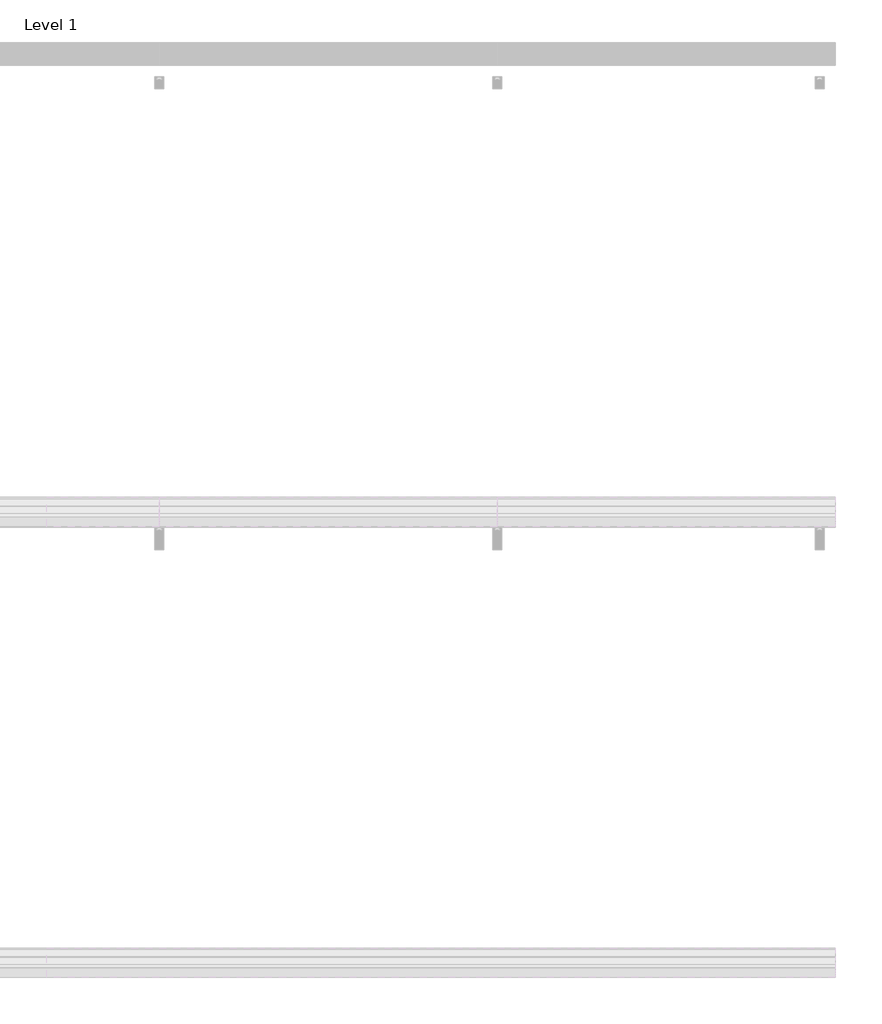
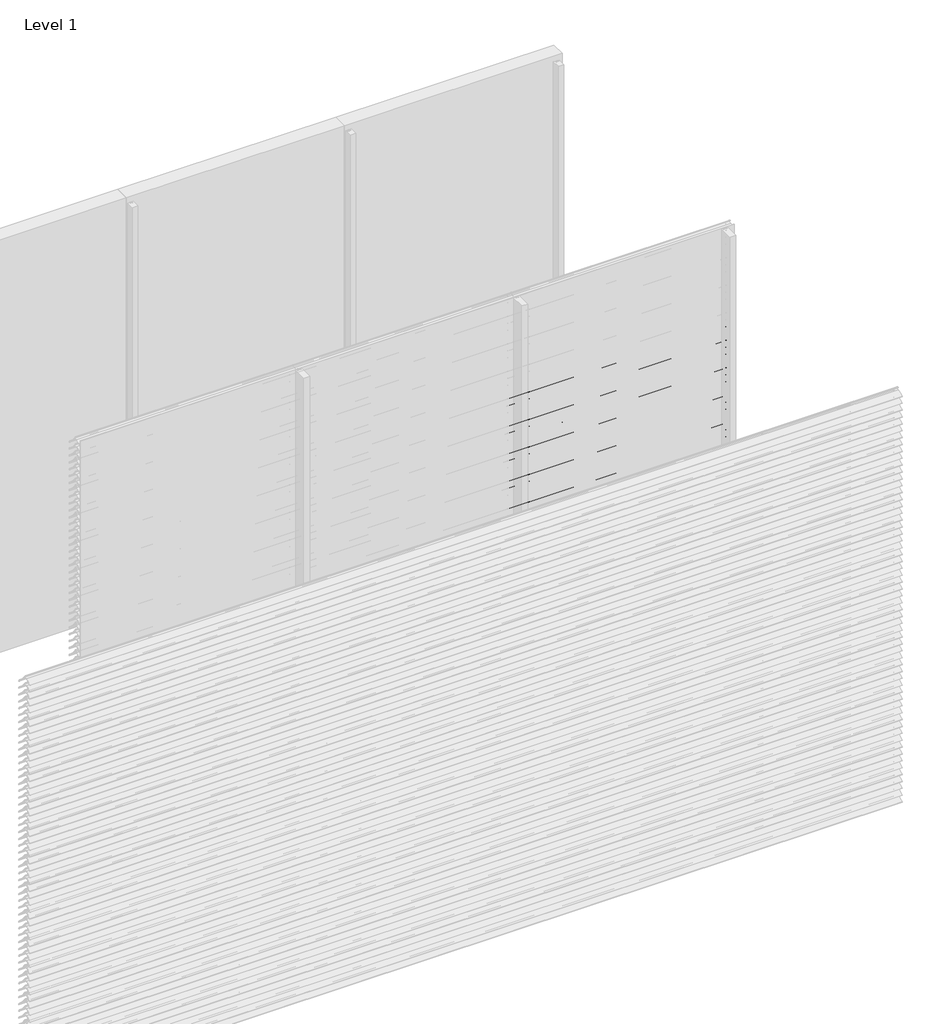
# One storey, part 69 of 173: 17 proxies.
"""IFC4 building model written with IfcOpenShell, lengths in millimetres."""

from ifc_helpers import new_model, si_unit, point, frame, frame_2d, origin, place, context, project, spatial, polyline, circle_curve, trimmed, segment, composite_curve, outline, extrude, element, save

model = new_model("IFC4")

# Units and contexts
model_context = context("Model", 3, world=origin())
ifc_project = project(units=[si_unit("LENGTHUNIT", "METRE", prefix="MILLI")], contexts=[model_context])

# Site, building, storey
site = spatial("IfcSite", under=ifc_project)
building = spatial("IfcBuilding", under=site)
storey = spatial("IfcBuildingStorey", under=building, Name="Level 1", Elevation=0.0)

# Proxies
placement = place(None, origin())
element("IfcBuildingElementProxy", 1, Name="Wall Sweeps", at=placement, inside=storey, context=model_context, shape_type="SweptSolid", body=[
    extrude(outline(composite_curve([segment(polyline([(-35998.0, 2209.1474905), (-35998.0, 2211.6227417)]), True, "CONTINUOUS"), segment(trimmed(circle_curve(frame_2d((-35951.2682172, 2166.2200208)), 65.1557103), [point((-35998.0, 2211.6227417))], [point((-35954.4014323, 2231.3003524))], False, "CARTESIAN"), True, "CONTINUOUS"), segment(polyline([(-35954.4014323, 2231.3003524), (-35934.8315836, 2231.3003524)]), True, "CONTINUOUS"), segment(trimmed(circle_curve(frame_2d((-35732.7329489, 2378.5533172)), 250.0545817), [point((-35934.8315836, 2231.3003524))], [point((-35941.4452143, 2240.8344583))], False, "CARTESIAN"), True, "CONTINUOUS"), segment(trimmed(circle_curve(frame_2d((-35953.2981792, 2235.1737835)), 13.1352966), [point((-35941.4452143, 2240.8344583))], [point((-35953.8171475, 2248.298824))], True, "CARTESIAN"), True, "CONTINUOUS"), segment(polyline([(-35953.8171475, 2248.298824), (-35953.8171475, 2250.0)]), True, "CONTINUOUS"), segment(trimmed(circle_curve(frame_2d((-35953.2981792, 2235.1737835)), 14.8352966), [point((-35953.8171475, 2250.0))], [point((-35939.9637661, 2241.6760487))], False, "CARTESIAN"), True, "CONTINUOUS"), segment(trimmed(circle_curve(frame_2d((-35732.7329489, 2378.5533172)), 248.3545817), [point((-35939.9637661, 2241.6760487))], [point((-35873.8787895, 2174.2059416))], True, "CARTESIAN"), True, "CONTINUOUS"), segment(trimmed(circle_curve(frame_2d((-35883.8147537, 2161.6649442)), 16.0), [point((-35873.8787895, 2174.2059416))], [point((-35867.8648347, 2160.4))], False, "CARTESIAN"), True, "CONTINUOUS"), segment(polyline([(-35867.8648347, 2160.4), (-35869.6712069, 2160.4)]), True, "CONTINUOUS"), segment(trimmed(circle_curve(frame_2d((-35883.8147537, 2161.6649442)), 14.2), [point((-35869.6712069, 2160.4))], [point((-35874.9518628, 2172.7594998))], True, "CARTESIAN"), True, "CONTINUOUS"), segment(trimmed(circle_curve(frame_2d((-35732.7329489, 2378.5533172)), 250.1545817), [point((-35874.9518628, 2172.7594998))], [point((-35933.7064024, 2229.6003524))], False, "CARTESIAN"), True, "CONTINUOUS"), segment(polyline([(-35933.7064024, 2229.6003524), (-35954.3602632, 2229.6003524)]), True, "CONTINUOUS"), segment(trimmed(circle_curve(frame_2d((-35951.2682172, 2166.2200208)), 63.4557103), [point((-35954.3602632, 2229.6003524))], [point((-35998.0, 2209.1474905))], True, "CARTESIAN"), True, "CONTINUOUS")], self_intersect=False)), frame((4500.0, 0.0, 0.0), z_axis=(1.0, 0.0, 0.0), x_axis=(0.0, 1.0, 0.0)), (0.0, 0.0, 1.0), 1500.0),
])
element("IfcBuildingElementProxy", 2, Name="Wall Sweeps", at=placement, inside=storey, context=model_context, shape_type="SweptSolid", body=[
    extrude(outline(composite_curve([segment(polyline([(-35998.0, 2159.1474905), (-35998.0, 2161.6227417)]), True, "CONTINUOUS"), segment(trimmed(circle_curve(frame_2d((-35951.2682172, 2116.2200208)), 65.1557103), [point((-35998.0, 2161.6227417))], [point((-35954.4014323, 2181.3003524))], False, "CARTESIAN"), True, "CONTINUOUS"), segment(polyline([(-35954.4014323, 2181.3003524), (-35934.8315836, 2181.3003524)]), True, "CONTINUOUS"), segment(trimmed(circle_curve(frame_2d((-35732.7329489, 2328.5533172)), 250.0545817), [point((-35934.8315836, 2181.3003524))], [point((-35941.4452143, 2190.8344583))], False, "CARTESIAN"), True, "CONTINUOUS"), segment(trimmed(circle_curve(frame_2d((-35953.2981792, 2185.1737835)), 13.1352966), [point((-35941.4452143, 2190.8344583))], [point((-35953.8171475, 2198.298824))], True, "CARTESIAN"), True, "CONTINUOUS"), segment(polyline([(-35953.8171475, 2198.298824), (-35953.8171475, 2200.0)]), True, "CONTINUOUS"), segment(trimmed(circle_curve(frame_2d((-35953.2981792, 2185.1737835)), 14.8352966), [point((-35953.8171475, 2200.0))], [point((-35939.9637661, 2191.6760487))], False, "CARTESIAN"), True, "CONTINUOUS"), segment(trimmed(circle_curve(frame_2d((-35732.7329489, 2328.5533172)), 248.3545817), [point((-35939.9637661, 2191.6760487))], [point((-35873.8787895, 2124.2059416))], True, "CARTESIAN"), True, "CONTINUOUS"), segment(trimmed(circle_curve(frame_2d((-35883.8147537, 2111.6649442)), 16.0), [point((-35873.8787895, 2124.2059416))], [point((-35867.8648347, 2110.4))], False, "CARTESIAN"), True, "CONTINUOUS"), segment(polyline([(-35867.8648347, 2110.4), (-35869.6712069, 2110.4)]), True, "CONTINUOUS"), segment(trimmed(circle_curve(frame_2d((-35883.8147537, 2111.6649442)), 14.2), [point((-35869.6712069, 2110.4))], [point((-35874.9518628, 2122.7594998))], True, "CARTESIAN"), True, "CONTINUOUS"), segment(trimmed(circle_curve(frame_2d((-35732.7329489, 2328.5533172)), 250.1545817), [point((-35874.9518628, 2122.7594998))], [point((-35933.7064024, 2179.6003524))], False, "CARTESIAN"), True, "CONTINUOUS"), segment(polyline([(-35933.7064024, 2179.6003524), (-35954.3602632, 2179.6003524)]), True, "CONTINUOUS"), segment(trimmed(circle_curve(frame_2d((-35951.2682172, 2116.2200208)), 63.4557103), [point((-35954.3602632, 2179.6003524))], [point((-35998.0, 2159.1474905))], True, "CARTESIAN"), True, "CONTINUOUS")], self_intersect=False)), frame((4500.0, 0.0, 0.0), z_axis=(1.0, 0.0, 0.0), x_axis=(0.0, 1.0, 0.0)), (0.0, 0.0, 1.0), 1500.0),
])
element("IfcBuildingElementProxy", 3, Name="Wall Sweeps", at=placement, inside=storey, context=model_context, shape_type="SweptSolid", body=[
    extrude(outline(composite_curve([segment(polyline([(-35998.0, 2109.1474905), (-35998.0, 2111.6227417)]), True, "CONTINUOUS"), segment(trimmed(circle_curve(frame_2d((-35951.2682172, 2066.2200208)), 65.1557103), [point((-35998.0, 2111.6227417))], [point((-35954.4014323, 2131.3003524))], False, "CARTESIAN"), True, "CONTINUOUS"), segment(polyline([(-35954.4014323, 2131.3003524), (-35934.8315836, 2131.3003524)]), True, "CONTINUOUS"), segment(trimmed(circle_curve(frame_2d((-35732.7329489, 2278.5533172)), 250.0545817), [point((-35934.8315836, 2131.3003524))], [point((-35941.4452143, 2140.8344583))], False, "CARTESIAN"), True, "CONTINUOUS"), segment(trimmed(circle_curve(frame_2d((-35953.2981792, 2135.1737835)), 13.1352966), [point((-35941.4452143, 2140.8344583))], [point((-35953.8171475, 2148.298824))], True, "CARTESIAN"), True, "CONTINUOUS"), segment(polyline([(-35953.8171475, 2148.298824), (-35953.8171475, 2150.0)]), True, "CONTINUOUS"), segment(trimmed(circle_curve(frame_2d((-35953.2981792, 2135.1737835)), 14.8352966), [point((-35953.8171475, 2150.0))], [point((-35939.9637661, 2141.6760487))], False, "CARTESIAN"), True, "CONTINUOUS"), segment(trimmed(circle_curve(frame_2d((-35732.7329489, 2278.5533172)), 248.3545817), [point((-35939.9637661, 2141.6760487))], [point((-35873.8787895, 2074.2059416))], True, "CARTESIAN"), True, "CONTINUOUS"), segment(trimmed(circle_curve(frame_2d((-35883.8147537, 2061.6649442)), 16.0), [point((-35873.8787895, 2074.2059416))], [point((-35867.8648347, 2060.4))], False, "CARTESIAN"), True, "CONTINUOUS"), segment(polyline([(-35867.8648347, 2060.4), (-35869.6712069, 2060.4)]), True, "CONTINUOUS"), segment(trimmed(circle_curve(frame_2d((-35883.8147537, 2061.6649442)), 14.2), [point((-35869.6712069, 2060.4))], [point((-35874.9518628, 2072.7594998))], True, "CARTESIAN"), True, "CONTINUOUS"), segment(trimmed(circle_curve(frame_2d((-35732.7329489, 2278.5533172)), 250.1545817), [point((-35874.9518628, 2072.7594998))], [point((-35933.7064024, 2129.6003524))], False, "CARTESIAN"), True, "CONTINUOUS"), segment(polyline([(-35933.7064024, 2129.6003524), (-35954.3602632, 2129.6003524)]), True, "CONTINUOUS"), segment(trimmed(circle_curve(frame_2d((-35951.2682172, 2066.2200208)), 63.4557103), [point((-35954.3602632, 2129.6003524))], [point((-35998.0, 2109.1474905))], True, "CARTESIAN"), True, "CONTINUOUS")], self_intersect=False)), frame((4500.0, 0.0, 0.0), z_axis=(1.0, 0.0, 0.0), x_axis=(0.0, 1.0, 0.0)), (0.0, 0.0, 1.0), 1500.0),
])
element("IfcBuildingElementProxy", 4, Name="Wall Sweeps", at=placement, inside=storey, context=model_context, shape_type="SweptSolid", body=[
    extrude(outline(composite_curve([segment(polyline([(-35998.0, 2059.1474905), (-35998.0, 2061.6227417)]), True, "CONTINUOUS"), segment(trimmed(circle_curve(frame_2d((-35951.2682172, 2016.2200208)), 65.1557103), [point((-35998.0, 2061.6227417))], [point((-35954.4014323, 2081.3003524))], False, "CARTESIAN"), True, "CONTINUOUS"), segment(polyline([(-35954.4014323, 2081.3003524), (-35934.8315836, 2081.3003524)]), True, "CONTINUOUS"), segment(trimmed(circle_curve(frame_2d((-35732.7329489, 2228.5533172)), 250.0545817), [point((-35934.8315836, 2081.3003524))], [point((-35941.4452143, 2090.8344583))], False, "CARTESIAN"), True, "CONTINUOUS"), segment(trimmed(circle_curve(frame_2d((-35953.2981792, 2085.1737835)), 13.1352966), [point((-35941.4452143, 2090.8344583))], [point((-35953.8171475, 2098.298824))], True, "CARTESIAN"), True, "CONTINUOUS"), segment(polyline([(-35953.8171475, 2098.298824), (-35953.8171475, 2100.0)]), True, "CONTINUOUS"), segment(trimmed(circle_curve(frame_2d((-35953.2981792, 2085.1737835)), 14.8352966), [point((-35953.8171475, 2100.0))], [point((-35939.9637661, 2091.6760487))], False, "CARTESIAN"), True, "CONTINUOUS"), segment(trimmed(circle_curve(frame_2d((-35732.7329489, 2228.5533172)), 248.3545817), [point((-35939.9637661, 2091.6760487))], [point((-35873.8787895, 2024.2059416))], True, "CARTESIAN"), True, "CONTINUOUS"), segment(trimmed(circle_curve(frame_2d((-35883.8147537, 2011.6649442)), 16.0), [point((-35873.8787895, 2024.2059416))], [point((-35867.8648347, 2010.4))], False, "CARTESIAN"), True, "CONTINUOUS"), segment(polyline([(-35867.8648347, 2010.4), (-35869.6712069, 2010.4)]), True, "CONTINUOUS"), segment(trimmed(circle_curve(frame_2d((-35883.8147537, 2011.6649442)), 14.2), [point((-35869.6712069, 2010.4))], [point((-35874.9518628, 2022.7594998))], True, "CARTESIAN"), True, "CONTINUOUS"), segment(trimmed(circle_curve(frame_2d((-35732.7329489, 2228.5533172)), 250.1545817), [point((-35874.9518628, 2022.7594998))], [point((-35933.7064024, 2079.6003524))], False, "CARTESIAN"), True, "CONTINUOUS"), segment(polyline([(-35933.7064024, 2079.6003524), (-35954.3602632, 2079.6003524)]), True, "CONTINUOUS"), segment(trimmed(circle_curve(frame_2d((-35951.2682172, 2016.2200208)), 63.4557103), [point((-35954.3602632, 2079.6003524))], [point((-35998.0, 2059.1474905))], True, "CARTESIAN"), True, "CONTINUOUS")], self_intersect=False)), frame((4500.0, 0.0, 0.0), z_axis=(1.0, 0.0, 0.0), x_axis=(0.0, 1.0, 0.0)), (0.0, 0.0, 1.0), 1500.0),
])
element("IfcBuildingElementProxy", 5, Name="Wall Sweeps", at=placement, inside=storey, context=model_context, shape_type="SweptSolid", body=[
    extrude(outline(composite_curve([segment(polyline([(-35998.0, 2009.1474905), (-35998.0, 2011.6227417)]), True, "CONTINUOUS"), segment(trimmed(circle_curve(frame_2d((-35951.2682172, 1966.2200208)), 65.1557103), [point((-35998.0, 2011.6227417))], [point((-35954.4014323, 2031.3003524))], False, "CARTESIAN"), True, "CONTINUOUS"), segment(polyline([(-35954.4014323, 2031.3003524), (-35934.8315836, 2031.3003524)]), True, "CONTINUOUS"), segment(trimmed(circle_curve(frame_2d((-35732.7329489, 2178.5533172)), 250.0545817), [point((-35934.8315836, 2031.3003524))], [point((-35941.4452143, 2040.8344583))], False, "CARTESIAN"), True, "CONTINUOUS"), segment(trimmed(circle_curve(frame_2d((-35953.2981792, 2035.1737835)), 13.1352966), [point((-35941.4452143, 2040.8344583))], [point((-35953.8171475, 2048.298824))], True, "CARTESIAN"), True, "CONTINUOUS"), segment(polyline([(-35953.8171475, 2048.298824), (-35953.8171475, 2050.0)]), True, "CONTINUOUS"), segment(trimmed(circle_curve(frame_2d((-35953.2981792, 2035.1737835)), 14.8352966), [point((-35953.8171475, 2050.0))], [point((-35939.9637661, 2041.6760487))], False, "CARTESIAN"), True, "CONTINUOUS"), segment(trimmed(circle_curve(frame_2d((-35732.7329489, 2178.5533172)), 248.3545817), [point((-35939.9637661, 2041.6760487))], [point((-35873.8787895, 1974.2059416))], True, "CARTESIAN"), True, "CONTINUOUS"), segment(trimmed(circle_curve(frame_2d((-35883.8147537, 1961.6649442)), 16.0), [point((-35873.8787895, 1974.2059416))], [point((-35867.8648347, 1960.4))], False, "CARTESIAN"), True, "CONTINUOUS"), segment(polyline([(-35867.8648347, 1960.4), (-35869.6712069, 1960.4)]), True, "CONTINUOUS"), segment(trimmed(circle_curve(frame_2d((-35883.8147537, 1961.6649442)), 14.2), [point((-35869.6712069, 1960.4))], [point((-35874.9518628, 1972.7594998))], True, "CARTESIAN"), True, "CONTINUOUS"), segment(trimmed(circle_curve(frame_2d((-35732.7329489, 2178.5533172)), 250.1545817), [point((-35874.9518628, 1972.7594998))], [point((-35933.7064024, 2029.6003524))], False, "CARTESIAN"), True, "CONTINUOUS"), segment(polyline([(-35933.7064024, 2029.6003524), (-35954.3602632, 2029.6003524)]), True, "CONTINUOUS"), segment(trimmed(circle_curve(frame_2d((-35951.2682172, 1966.2200208)), 63.4557103), [point((-35954.3602632, 2029.6003524))], [point((-35998.0, 2009.1474905))], True, "CARTESIAN"), True, "CONTINUOUS")], self_intersect=False)), frame((4500.0, 0.0, 0.0), z_axis=(1.0, 0.0, 0.0), x_axis=(0.0, 1.0, 0.0)), (0.0, 0.0, 1.0), 1500.0),
])
element("IfcBuildingElementProxy", 6, Name="Wall Sweeps", at=placement, inside=storey, context=model_context, shape_type="SweptSolid", body=[
    extrude(outline(composite_curve([segment(polyline([(-35998.0, 1959.1474905), (-35998.0, 1961.6227417)]), True, "CONTINUOUS"), segment(trimmed(circle_curve(frame_2d((-35951.2682172, 1916.2200208)), 65.1557103), [point((-35998.0, 1961.6227417))], [point((-35954.4014323, 1981.3003524))], False, "CARTESIAN"), True, "CONTINUOUS"), segment(polyline([(-35954.4014323, 1981.3003524), (-35934.8315836, 1981.3003524)]), True, "CONTINUOUS"), segment(trimmed(circle_curve(frame_2d((-35732.7329489, 2128.5533172)), 250.0545817), [point((-35934.8315836, 1981.3003524))], [point((-35941.4452143, 1990.8344583))], False, "CARTESIAN"), True, "CONTINUOUS"), segment(trimmed(circle_curve(frame_2d((-35953.2981792, 1985.1737835)), 13.1352966), [point((-35941.4452143, 1990.8344583))], [point((-35953.8171475, 1998.298824))], True, "CARTESIAN"), True, "CONTINUOUS"), segment(polyline([(-35953.8171475, 1998.298824), (-35953.8171475, 2000.0)]), True, "CONTINUOUS"), segment(trimmed(circle_curve(frame_2d((-35953.2981792, 1985.1737835)), 14.8352966), [point((-35953.8171475, 2000.0))], [point((-35939.9637661, 1991.6760487))], False, "CARTESIAN"), True, "CONTINUOUS"), segment(trimmed(circle_curve(frame_2d((-35732.7329489, 2128.5533172)), 248.3545817), [point((-35939.9637661, 1991.6760487))], [point((-35873.8787895, 1924.2059416))], True, "CARTESIAN"), True, "CONTINUOUS"), segment(trimmed(circle_curve(frame_2d((-35883.8147537, 1911.6649442)), 16.0), [point((-35873.8787895, 1924.2059416))], [point((-35867.8648347, 1910.4))], False, "CARTESIAN"), True, "CONTINUOUS"), segment(polyline([(-35867.8648347, 1910.4), (-35869.6712069, 1910.4)]), True, "CONTINUOUS"), segment(trimmed(circle_curve(frame_2d((-35883.8147537, 1911.6649442)), 14.2), [point((-35869.6712069, 1910.4))], [point((-35874.9518628, 1922.7594998))], True, "CARTESIAN"), True, "CONTINUOUS"), segment(trimmed(circle_curve(frame_2d((-35732.7329489, 2128.5533172)), 250.1545817), [point((-35874.9518628, 1922.7594998))], [point((-35933.7064024, 1979.6003524))], False, "CARTESIAN"), True, "CONTINUOUS"), segment(polyline([(-35933.7064024, 1979.6003524), (-35954.3602632, 1979.6003524)]), True, "CONTINUOUS"), segment(trimmed(circle_curve(frame_2d((-35951.2682172, 1916.2200208)), 63.4557103), [point((-35954.3602632, 1979.6003524))], [point((-35998.0, 1959.1474905))], True, "CARTESIAN"), True, "CONTINUOUS")], self_intersect=False)), frame((4500.0, 0.0, 0.0), z_axis=(1.0, 0.0, 0.0), x_axis=(0.0, 1.0, 0.0)), (0.0, 0.0, 1.0), 1500.0),
])
element("IfcBuildingElementProxy", 7, Name="Wall Sweeps", at=placement, inside=storey, context=model_context, shape_type="SweptSolid", body=[
    extrude(outline(composite_curve([segment(polyline([(-35998.0, 1909.1474905), (-35998.0, 1911.6227417)]), True, "CONTINUOUS"), segment(trimmed(circle_curve(frame_2d((-35951.2682172, 1866.2200208)), 65.1557103), [point((-35998.0, 1911.6227417))], [point((-35954.4014323, 1931.3003524))], False, "CARTESIAN"), True, "CONTINUOUS"), segment(polyline([(-35954.4014323, 1931.3003524), (-35934.8315836, 1931.3003524)]), True, "CONTINUOUS"), segment(trimmed(circle_curve(frame_2d((-35732.7329489, 2078.5533172)), 250.0545817), [point((-35934.8315836, 1931.3003524))], [point((-35941.4452143, 1940.8344583))], False, "CARTESIAN"), True, "CONTINUOUS"), segment(trimmed(circle_curve(frame_2d((-35953.2981792, 1935.1737835)), 13.1352966), [point((-35941.4452143, 1940.8344583))], [point((-35953.8171475, 1948.298824))], True, "CARTESIAN"), True, "CONTINUOUS"), segment(polyline([(-35953.8171475, 1948.298824), (-35953.8171475, 1950.0)]), True, "CONTINUOUS"), segment(trimmed(circle_curve(frame_2d((-35953.2981792, 1935.1737835)), 14.8352966), [point((-35953.8171475, 1950.0))], [point((-35939.9637661, 1941.6760487))], False, "CARTESIAN"), True, "CONTINUOUS"), segment(trimmed(circle_curve(frame_2d((-35732.7329489, 2078.5533172)), 248.3545817), [point((-35939.9637661, 1941.6760487))], [point((-35873.8787895, 1874.2059416))], True, "CARTESIAN"), True, "CONTINUOUS"), segment(trimmed(circle_curve(frame_2d((-35883.8147537, 1861.6649442)), 16.0), [point((-35873.8787895, 1874.2059416))], [point((-35867.8648347, 1860.4))], False, "CARTESIAN"), True, "CONTINUOUS"), segment(polyline([(-35867.8648347, 1860.4), (-35869.6712069, 1860.4)]), True, "CONTINUOUS"), segment(trimmed(circle_curve(frame_2d((-35883.8147537, 1861.6649442)), 14.2), [point((-35869.6712069, 1860.4))], [point((-35874.9518628, 1872.7594998))], True, "CARTESIAN"), True, "CONTINUOUS"), segment(trimmed(circle_curve(frame_2d((-35732.7329489, 2078.5533172)), 250.1545817), [point((-35874.9518628, 1872.7594998))], [point((-35933.7064024, 1929.6003524))], False, "CARTESIAN"), True, "CONTINUOUS"), segment(polyline([(-35933.7064024, 1929.6003524), (-35954.3602632, 1929.6003524)]), True, "CONTINUOUS"), segment(trimmed(circle_curve(frame_2d((-35951.2682172, 1866.2200208)), 63.4557103), [point((-35954.3602632, 1929.6003524))], [point((-35998.0, 1909.1474905))], True, "CARTESIAN"), True, "CONTINUOUS")], self_intersect=False)), frame((4500.0, 0.0, 0.0), z_axis=(1.0, 0.0, 0.0), x_axis=(0.0, 1.0, 0.0)), (0.0, 0.0, 1.0), 1500.0),
])
element("IfcBuildingElementProxy", 8, Name="Wall Sweeps", at=placement, inside=storey, context=model_context, shape_type="SweptSolid", body=[
    extrude(outline(composite_curve([segment(polyline([(-35998.0, 1859.1474905), (-35998.0, 1861.6227417)]), True, "CONTINUOUS"), segment(trimmed(circle_curve(frame_2d((-35951.2682172, 1816.2200208)), 65.1557103), [point((-35998.0, 1861.6227417))], [point((-35954.4014323, 1881.3003524))], False, "CARTESIAN"), True, "CONTINUOUS"), segment(polyline([(-35954.4014323, 1881.3003524), (-35934.8315836, 1881.3003524)]), True, "CONTINUOUS"), segment(trimmed(circle_curve(frame_2d((-35732.7329489, 2028.5533172)), 250.0545817), [point((-35934.8315836, 1881.3003524))], [point((-35941.4452143, 1890.8344583))], False, "CARTESIAN"), True, "CONTINUOUS"), segment(trimmed(circle_curve(frame_2d((-35953.2981792, 1885.1737835)), 13.1352966), [point((-35941.4452143, 1890.8344583))], [point((-35953.8171475, 1898.298824))], True, "CARTESIAN"), True, "CONTINUOUS"), segment(polyline([(-35953.8171475, 1898.298824), (-35953.8171475, 1900.0)]), True, "CONTINUOUS"), segment(trimmed(circle_curve(frame_2d((-35953.2981792, 1885.1737835)), 14.8352966), [point((-35953.8171475, 1900.0))], [point((-35939.9637661, 1891.6760487))], False, "CARTESIAN"), True, "CONTINUOUS"), segment(trimmed(circle_curve(frame_2d((-35732.7329489, 2028.5533172)), 248.3545817), [point((-35939.9637661, 1891.6760487))], [point((-35873.8787895, 1824.2059416))], True, "CARTESIAN"), True, "CONTINUOUS"), segment(trimmed(circle_curve(frame_2d((-35883.8147537, 1811.6649442)), 16.0), [point((-35873.8787895, 1824.2059416))], [point((-35867.8648347, 1810.4))], False, "CARTESIAN"), True, "CONTINUOUS"), segment(polyline([(-35867.8648347, 1810.4), (-35869.6712069, 1810.4)]), True, "CONTINUOUS"), segment(trimmed(circle_curve(frame_2d((-35883.8147537, 1811.6649442)), 14.2), [point((-35869.6712069, 1810.4))], [point((-35874.9518628, 1822.7594998))], True, "CARTESIAN"), True, "CONTINUOUS"), segment(trimmed(circle_curve(frame_2d((-35732.7329489, 2028.5533172)), 250.1545817), [point((-35874.9518628, 1822.7594998))], [point((-35933.7064024, 1879.6003524))], False, "CARTESIAN"), True, "CONTINUOUS"), segment(polyline([(-35933.7064024, 1879.6003524), (-35954.3602632, 1879.6003524)]), True, "CONTINUOUS"), segment(trimmed(circle_curve(frame_2d((-35951.2682172, 1816.2200208)), 63.4557103), [point((-35954.3602632, 1879.6003524))], [point((-35998.0, 1859.1474905))], True, "CARTESIAN"), True, "CONTINUOUS")], self_intersect=False)), frame((4500.0, 0.0, 0.0), z_axis=(1.0, 0.0, 0.0), x_axis=(0.0, 1.0, 0.0)), (0.0, 0.0, 1.0), 1500.0),
])
element("IfcBuildingElementProxy", 9, Name="Wall Sweeps", at=placement, inside=storey, context=model_context, shape_type="SweptSolid", body=[
    extrude(outline(composite_curve([segment(polyline([(-35998.0, 1809.1474905), (-35998.0, 1811.6227417)]), True, "CONTINUOUS"), segment(trimmed(circle_curve(frame_2d((-35951.2682172, 1766.2200208)), 65.1557103), [point((-35998.0, 1811.6227417))], [point((-35954.4014323, 1831.3003524))], False, "CARTESIAN"), True, "CONTINUOUS"), segment(polyline([(-35954.4014323, 1831.3003524), (-35934.8315836, 1831.3003524)]), True, "CONTINUOUS"), segment(trimmed(circle_curve(frame_2d((-35732.7329489, 1978.5533172)), 250.0545817), [point((-35934.8315836, 1831.3003524))], [point((-35941.4452143, 1840.8344583))], False, "CARTESIAN"), True, "CONTINUOUS"), segment(trimmed(circle_curve(frame_2d((-35953.2981792, 1835.1737835)), 13.1352966), [point((-35941.4452143, 1840.8344583))], [point((-35953.8171475, 1848.298824))], True, "CARTESIAN"), True, "CONTINUOUS"), segment(polyline([(-35953.8171475, 1848.298824), (-35953.8171475, 1850.0)]), True, "CONTINUOUS"), segment(trimmed(circle_curve(frame_2d((-35953.2981792, 1835.1737835)), 14.8352966), [point((-35953.8171475, 1850.0))], [point((-35939.9637661, 1841.6760487))], False, "CARTESIAN"), True, "CONTINUOUS"), segment(trimmed(circle_curve(frame_2d((-35732.7329489, 1978.5533172)), 248.3545817), [point((-35939.9637661, 1841.6760487))], [point((-35873.8787895, 1774.2059416))], True, "CARTESIAN"), True, "CONTINUOUS"), segment(trimmed(circle_curve(frame_2d((-35883.8147537, 1761.6649442)), 16.0), [point((-35873.8787895, 1774.2059416))], [point((-35867.8648347, 1760.4))], False, "CARTESIAN"), True, "CONTINUOUS"), segment(polyline([(-35867.8648347, 1760.4), (-35869.6712069, 1760.4)]), True, "CONTINUOUS"), segment(trimmed(circle_curve(frame_2d((-35883.8147537, 1761.6649442)), 14.2), [point((-35869.6712069, 1760.4))], [point((-35874.9518628, 1772.7594998))], True, "CARTESIAN"), True, "CONTINUOUS"), segment(trimmed(circle_curve(frame_2d((-35732.7329489, 1978.5533172)), 250.1545817), [point((-35874.9518628, 1772.7594998))], [point((-35933.7064024, 1829.6003524))], False, "CARTESIAN"), True, "CONTINUOUS"), segment(polyline([(-35933.7064024, 1829.6003524), (-35954.3602632, 1829.6003524)]), True, "CONTINUOUS"), segment(trimmed(circle_curve(frame_2d((-35951.2682172, 1766.2200208)), 63.4557103), [point((-35954.3602632, 1829.6003524))], [point((-35998.0, 1809.1474905))], True, "CARTESIAN"), True, "CONTINUOUS")], self_intersect=False)), frame((4500.0, 0.0, 0.0), z_axis=(1.0, 0.0, 0.0), x_axis=(0.0, 1.0, 0.0)), (0.0, 0.0, 1.0), 1500.0),
])
element("IfcBuildingElementProxy", 10, Name="Wall Sweeps", at=placement, inside=storey, context=model_context, shape_type="SweptSolid", body=[
    extrude(outline(composite_curve([segment(polyline([(-35998.0, 1759.1474905), (-35998.0, 1761.6227417)]), True, "CONTINUOUS"), segment(trimmed(circle_curve(frame_2d((-35951.2682172, 1716.2200208)), 65.1557103), [point((-35998.0, 1761.6227417))], [point((-35954.4014323, 1781.3003524))], False, "CARTESIAN"), True, "CONTINUOUS"), segment(polyline([(-35954.4014323, 1781.3003524), (-35934.8315836, 1781.3003524)]), True, "CONTINUOUS"), segment(trimmed(circle_curve(frame_2d((-35732.7329489, 1928.5533172)), 250.0545817), [point((-35934.8315836, 1781.3003524))], [point((-35941.4452143, 1790.8344583))], False, "CARTESIAN"), True, "CONTINUOUS"), segment(trimmed(circle_curve(frame_2d((-35953.2981792, 1785.1737835)), 13.1352966), [point((-35941.4452143, 1790.8344583))], [point((-35953.8171475, 1798.298824))], True, "CARTESIAN"), True, "CONTINUOUS"), segment(polyline([(-35953.8171475, 1798.298824), (-35953.8171475, 1800.0)]), True, "CONTINUOUS"), segment(trimmed(circle_curve(frame_2d((-35953.2981792, 1785.1737835)), 14.8352966), [point((-35953.8171475, 1800.0))], [point((-35939.9637661, 1791.6760487))], False, "CARTESIAN"), True, "CONTINUOUS"), segment(trimmed(circle_curve(frame_2d((-35732.7329489, 1928.5533172)), 248.3545817), [point((-35939.9637661, 1791.6760487))], [point((-35873.8787895, 1724.2059416))], True, "CARTESIAN"), True, "CONTINUOUS"), segment(trimmed(circle_curve(frame_2d((-35883.8147537, 1711.6649442)), 16.0), [point((-35873.8787895, 1724.2059416))], [point((-35867.8648347, 1710.4))], False, "CARTESIAN"), True, "CONTINUOUS"), segment(polyline([(-35867.8648347, 1710.4), (-35869.6712069, 1710.4)]), True, "CONTINUOUS"), segment(trimmed(circle_curve(frame_2d((-35883.8147537, 1711.6649442)), 14.2), [point((-35869.6712069, 1710.4))], [point((-35874.9518628, 1722.7594998))], True, "CARTESIAN"), True, "CONTINUOUS"), segment(trimmed(circle_curve(frame_2d((-35732.7329489, 1928.5533172)), 250.1545817), [point((-35874.9518628, 1722.7594998))], [point((-35933.7064024, 1779.6003524))], False, "CARTESIAN"), True, "CONTINUOUS"), segment(polyline([(-35933.7064024, 1779.6003524), (-35954.3602632, 1779.6003524)]), True, "CONTINUOUS"), segment(trimmed(circle_curve(frame_2d((-35951.2682172, 1716.2200208)), 63.4557103), [point((-35954.3602632, 1779.6003524))], [point((-35998.0, 1759.1474905))], True, "CARTESIAN"), True, "CONTINUOUS")], self_intersect=False)), frame((4500.0, 0.0, 0.0), z_axis=(1.0, 0.0, 0.0), x_axis=(0.0, 1.0, 0.0)), (0.0, 0.0, 1.0), 1500.0),
])
element("IfcBuildingElementProxy", 11, Name="Wall Sweeps", at=placement, inside=storey, context=model_context, shape_type="SweptSolid", body=[
    extrude(outline(composite_curve([segment(polyline([(-35998.0, 1709.1474905), (-35998.0, 1711.6227417)]), True, "CONTINUOUS"), segment(trimmed(circle_curve(frame_2d((-35951.2682172, 1666.2200208)), 65.1557103), [point((-35998.0, 1711.6227417))], [point((-35954.4014323, 1731.3003524))], False, "CARTESIAN"), True, "CONTINUOUS"), segment(polyline([(-35954.4014323, 1731.3003524), (-35934.8315836, 1731.3003524)]), True, "CONTINUOUS"), segment(trimmed(circle_curve(frame_2d((-35732.7329489, 1878.5533172)), 250.0545817), [point((-35934.8315836, 1731.3003524))], [point((-35941.4452143, 1740.8344583))], False, "CARTESIAN"), True, "CONTINUOUS"), segment(trimmed(circle_curve(frame_2d((-35953.2981792, 1735.1737835)), 13.1352966), [point((-35941.4452143, 1740.8344583))], [point((-35953.8171475, 1748.298824))], True, "CARTESIAN"), True, "CONTINUOUS"), segment(polyline([(-35953.8171475, 1748.298824), (-35953.8171475, 1750.0)]), True, "CONTINUOUS"), segment(trimmed(circle_curve(frame_2d((-35953.2981792, 1735.1737835)), 14.8352966), [point((-35953.8171475, 1750.0))], [point((-35939.9637661, 1741.6760487))], False, "CARTESIAN"), True, "CONTINUOUS"), segment(trimmed(circle_curve(frame_2d((-35732.7329489, 1878.5533172)), 248.3545817), [point((-35939.9637661, 1741.6760487))], [point((-35873.8787895, 1674.2059416))], True, "CARTESIAN"), True, "CONTINUOUS"), segment(trimmed(circle_curve(frame_2d((-35883.8147537, 1661.6649442)), 16.0), [point((-35873.8787895, 1674.2059416))], [point((-35867.8648347, 1660.4))], False, "CARTESIAN"), True, "CONTINUOUS"), segment(polyline([(-35867.8648347, 1660.4), (-35869.6712069, 1660.4)]), True, "CONTINUOUS"), segment(trimmed(circle_curve(frame_2d((-35883.8147537, 1661.6649442)), 14.2), [point((-35869.6712069, 1660.4))], [point((-35874.9518628, 1672.7594998))], True, "CARTESIAN"), True, "CONTINUOUS"), segment(trimmed(circle_curve(frame_2d((-35732.7329489, 1878.5533172)), 250.1545817), [point((-35874.9518628, 1672.7594998))], [point((-35933.7064024, 1729.6003524))], False, "CARTESIAN"), True, "CONTINUOUS"), segment(polyline([(-35933.7064024, 1729.6003524), (-35954.3602632, 1729.6003524)]), True, "CONTINUOUS"), segment(trimmed(circle_curve(frame_2d((-35951.2682172, 1666.2200208)), 63.4557103), [point((-35954.3602632, 1729.6003524))], [point((-35998.0, 1709.1474905))], True, "CARTESIAN"), True, "CONTINUOUS")], self_intersect=False)), frame((4500.0, 0.0, 0.0), z_axis=(1.0, 0.0, 0.0), x_axis=(0.0, 1.0, 0.0)), (0.0, 0.0, 1.0), 1500.0),
])
element("IfcBuildingElementProxy", 12, Name="Wall Sweeps", at=placement, inside=storey, context=model_context, shape_type="SweptSolid", body=[
    extrude(outline(composite_curve([segment(polyline([(-35998.0, 1659.1474905), (-35998.0, 1661.6227417)]), True, "CONTINUOUS"), segment(trimmed(circle_curve(frame_2d((-35951.2682172, 1616.2200208)), 65.1557103), [point((-35998.0, 1661.6227417))], [point((-35954.4014323, 1681.3003524))], False, "CARTESIAN"), True, "CONTINUOUS"), segment(polyline([(-35954.4014323, 1681.3003524), (-35934.8315836, 1681.3003524)]), True, "CONTINUOUS"), segment(trimmed(circle_curve(frame_2d((-35732.7329489, 1828.5533172)), 250.0545817), [point((-35934.8315836, 1681.3003524))], [point((-35941.4452143, 1690.8344583))], False, "CARTESIAN"), True, "CONTINUOUS"), segment(trimmed(circle_curve(frame_2d((-35953.2981792, 1685.1737835)), 13.1352966), [point((-35941.4452143, 1690.8344583))], [point((-35953.8171475, 1698.298824))], True, "CARTESIAN"), True, "CONTINUOUS"), segment(polyline([(-35953.8171475, 1698.298824), (-35953.8171475, 1700.0)]), True, "CONTINUOUS"), segment(trimmed(circle_curve(frame_2d((-35953.2981792, 1685.1737835)), 14.8352966), [point((-35953.8171475, 1700.0))], [point((-35939.9637661, 1691.6760487))], False, "CARTESIAN"), True, "CONTINUOUS"), segment(trimmed(circle_curve(frame_2d((-35732.7329489, 1828.5533172)), 248.3545817), [point((-35939.9637661, 1691.6760487))], [point((-35873.8787895, 1624.2059416))], True, "CARTESIAN"), True, "CONTINUOUS"), segment(trimmed(circle_curve(frame_2d((-35883.8147537, 1611.6649442)), 16.0), [point((-35873.8787895, 1624.2059416))], [point((-35867.8648347, 1610.4))], False, "CARTESIAN"), True, "CONTINUOUS"), segment(polyline([(-35867.8648347, 1610.4), (-35869.6712069, 1610.4)]), True, "CONTINUOUS"), segment(trimmed(circle_curve(frame_2d((-35883.8147537, 1611.6649442)), 14.2), [point((-35869.6712069, 1610.4))], [point((-35874.9518628, 1622.7594998))], True, "CARTESIAN"), True, "CONTINUOUS"), segment(trimmed(circle_curve(frame_2d((-35732.7329489, 1828.5533172)), 250.1545817), [point((-35874.9518628, 1622.7594998))], [point((-35933.7064024, 1679.6003524))], False, "CARTESIAN"), True, "CONTINUOUS"), segment(polyline([(-35933.7064024, 1679.6003524), (-35954.3602632, 1679.6003524)]), True, "CONTINUOUS"), segment(trimmed(circle_curve(frame_2d((-35951.2682172, 1616.2200208)), 63.4557103), [point((-35954.3602632, 1679.6003524))], [point((-35998.0, 1659.1474905))], True, "CARTESIAN"), True, "CONTINUOUS")], self_intersect=False)), frame((4500.0, 0.0, 0.0), z_axis=(1.0, 0.0, 0.0), x_axis=(0.0, 1.0, 0.0)), (0.0, 0.0, 1.0), 1500.0),
])
element("IfcBuildingElementProxy", 13, Name="Wall Sweeps", at=placement, inside=storey, context=model_context, shape_type="SweptSolid", body=[
    extrude(outline(composite_curve([segment(polyline([(-35998.0, 1609.1474905), (-35998.0, 1611.6227417)]), True, "CONTINUOUS"), segment(trimmed(circle_curve(frame_2d((-35951.2682172, 1566.2200208)), 65.1557103), [point((-35998.0, 1611.6227417))], [point((-35954.4014323, 1631.3003524))], False, "CARTESIAN"), True, "CONTINUOUS"), segment(polyline([(-35954.4014323, 1631.3003524), (-35934.8315836, 1631.3003524)]), True, "CONTINUOUS"), segment(trimmed(circle_curve(frame_2d((-35732.7329489, 1778.5533172)), 250.0545817), [point((-35934.8315836, 1631.3003524))], [point((-35941.4452143, 1640.8344583))], False, "CARTESIAN"), True, "CONTINUOUS"), segment(trimmed(circle_curve(frame_2d((-35953.2981792, 1635.1737835)), 13.1352966), [point((-35941.4452143, 1640.8344583))], [point((-35953.8171475, 1648.298824))], True, "CARTESIAN"), True, "CONTINUOUS"), segment(polyline([(-35953.8171475, 1648.298824), (-35953.8171475, 1650.0)]), True, "CONTINUOUS"), segment(trimmed(circle_curve(frame_2d((-35953.2981792, 1635.1737835)), 14.8352966), [point((-35953.8171475, 1650.0))], [point((-35939.9637661, 1641.6760487))], False, "CARTESIAN"), True, "CONTINUOUS"), segment(trimmed(circle_curve(frame_2d((-35732.7329489, 1778.5533172)), 248.3545817), [point((-35939.9637661, 1641.6760487))], [point((-35873.8787895, 1574.2059416))], True, "CARTESIAN"), True, "CONTINUOUS"), segment(trimmed(circle_curve(frame_2d((-35883.8147537, 1561.6649442)), 16.0), [point((-35873.8787895, 1574.2059416))], [point((-35867.8648347, 1560.4))], False, "CARTESIAN"), True, "CONTINUOUS"), segment(polyline([(-35867.8648347, 1560.4), (-35869.6712069, 1560.4)]), True, "CONTINUOUS"), segment(trimmed(circle_curve(frame_2d((-35883.8147537, 1561.6649442)), 14.2), [point((-35869.6712069, 1560.4))], [point((-35874.9518628, 1572.7594998))], True, "CARTESIAN"), True, "CONTINUOUS"), segment(trimmed(circle_curve(frame_2d((-35732.7329489, 1778.5533172)), 250.1545817), [point((-35874.9518628, 1572.7594998))], [point((-35933.7064024, 1629.6003524))], False, "CARTESIAN"), True, "CONTINUOUS"), segment(polyline([(-35933.7064024, 1629.6003524), (-35954.3602632, 1629.6003524)]), True, "CONTINUOUS"), segment(trimmed(circle_curve(frame_2d((-35951.2682172, 1566.2200208)), 63.4557103), [point((-35954.3602632, 1629.6003524))], [point((-35998.0, 1609.1474905))], True, "CARTESIAN"), True, "CONTINUOUS")], self_intersect=False)), frame((4500.0, 0.0, 0.0), z_axis=(1.0, 0.0, 0.0), x_axis=(0.0, 1.0, 0.0)), (0.0, 0.0, 1.0), 1500.0),
])
element("IfcBuildingElementProxy", 14, Name="Wall Sweeps", at=placement, inside=storey, context=model_context, shape_type="SweptSolid", body=[
    extrude(outline(composite_curve([segment(polyline([(-35998.0, 1559.1474905), (-35998.0, 1561.6227417)]), True, "CONTINUOUS"), segment(trimmed(circle_curve(frame_2d((-35951.2682172, 1516.2200208)), 65.1557103), [point((-35998.0, 1561.6227417))], [point((-35954.4014323, 1581.3003524))], False, "CARTESIAN"), True, "CONTINUOUS"), segment(polyline([(-35954.4014323, 1581.3003524), (-35934.8315836, 1581.3003524)]), True, "CONTINUOUS"), segment(trimmed(circle_curve(frame_2d((-35732.7329489, 1728.5533172)), 250.0545817), [point((-35934.8315836, 1581.3003524))], [point((-35941.4452143, 1590.8344583))], False, "CARTESIAN"), True, "CONTINUOUS"), segment(trimmed(circle_curve(frame_2d((-35953.2981792, 1585.1737835)), 13.1352966), [point((-35941.4452143, 1590.8344583))], [point((-35953.8171475, 1598.298824))], True, "CARTESIAN"), True, "CONTINUOUS"), segment(polyline([(-35953.8171475, 1598.298824), (-35953.8171475, 1600.0)]), True, "CONTINUOUS"), segment(trimmed(circle_curve(frame_2d((-35953.2981792, 1585.1737835)), 14.8352966), [point((-35953.8171475, 1600.0))], [point((-35939.9637661, 1591.6760487))], False, "CARTESIAN"), True, "CONTINUOUS"), segment(trimmed(circle_curve(frame_2d((-35732.7329489, 1728.5533172)), 248.3545817), [point((-35939.9637661, 1591.6760487))], [point((-35873.8787895, 1524.2059416))], True, "CARTESIAN"), True, "CONTINUOUS"), segment(trimmed(circle_curve(frame_2d((-35883.8147537, 1511.6649442)), 16.0), [point((-35873.8787895, 1524.2059416))], [point((-35867.8648347, 1510.4))], False, "CARTESIAN"), True, "CONTINUOUS"), segment(polyline([(-35867.8648347, 1510.4), (-35869.6712069, 1510.4)]), True, "CONTINUOUS"), segment(trimmed(circle_curve(frame_2d((-35883.8147537, 1511.6649442)), 14.2), [point((-35869.6712069, 1510.4))], [point((-35874.9518628, 1522.7594998))], True, "CARTESIAN"), True, "CONTINUOUS"), segment(trimmed(circle_curve(frame_2d((-35732.7329489, 1728.5533172)), 250.1545817), [point((-35874.9518628, 1522.7594998))], [point((-35933.7064024, 1579.6003524))], False, "CARTESIAN"), True, "CONTINUOUS"), segment(polyline([(-35933.7064024, 1579.6003524), (-35954.3602632, 1579.6003524)]), True, "CONTINUOUS"), segment(trimmed(circle_curve(frame_2d((-35951.2682172, 1516.2200208)), 63.4557103), [point((-35954.3602632, 1579.6003524))], [point((-35998.0, 1559.1474905))], True, "CARTESIAN"), True, "CONTINUOUS")], self_intersect=False)), frame((4500.0, 0.0, 0.0), z_axis=(1.0, 0.0, 0.0), x_axis=(0.0, 1.0, 0.0)), (0.0, 0.0, 1.0), 1500.0),
])
element("IfcBuildingElementProxy", 15, Name="Wall Sweeps", at=placement, inside=storey, context=model_context, shape_type="SweptSolid", body=[
    extrude(outline(composite_curve([segment(polyline([(-35998.0, 1509.1474905), (-35998.0, 1511.6227417)]), True, "CONTINUOUS"), segment(trimmed(circle_curve(frame_2d((-35951.2682172, 1466.2200208)), 65.1557103), [point((-35998.0, 1511.6227417))], [point((-35954.4014323, 1531.3003524))], False, "CARTESIAN"), True, "CONTINUOUS"), segment(polyline([(-35954.4014323, 1531.3003524), (-35934.8315836, 1531.3003524)]), True, "CONTINUOUS"), segment(trimmed(circle_curve(frame_2d((-35732.7329489, 1678.5533172)), 250.0545817), [point((-35934.8315836, 1531.3003524))], [point((-35941.4452143, 1540.8344583))], False, "CARTESIAN"), True, "CONTINUOUS"), segment(trimmed(circle_curve(frame_2d((-35953.2981792, 1535.1737835)), 13.1352966), [point((-35941.4452143, 1540.8344583))], [point((-35953.8171475, 1548.298824))], True, "CARTESIAN"), True, "CONTINUOUS"), segment(polyline([(-35953.8171475, 1548.298824), (-35953.8171475, 1550.0)]), True, "CONTINUOUS"), segment(trimmed(circle_curve(frame_2d((-35953.2981792, 1535.1737835)), 14.8352966), [point((-35953.8171475, 1550.0))], [point((-35939.9637661, 1541.6760487))], False, "CARTESIAN"), True, "CONTINUOUS"), segment(trimmed(circle_curve(frame_2d((-35732.7329489, 1678.5533172)), 248.3545817), [point((-35939.9637661, 1541.6760487))], [point((-35873.8787895, 1474.2059416))], True, "CARTESIAN"), True, "CONTINUOUS"), segment(trimmed(circle_curve(frame_2d((-35883.8147537, 1461.6649442)), 16.0), [point((-35873.8787895, 1474.2059416))], [point((-35867.8648347, 1460.4))], False, "CARTESIAN"), True, "CONTINUOUS"), segment(polyline([(-35867.8648347, 1460.4), (-35869.6712069, 1460.4)]), True, "CONTINUOUS"), segment(trimmed(circle_curve(frame_2d((-35883.8147537, 1461.6649442)), 14.2), [point((-35869.6712069, 1460.4))], [point((-35874.9518628, 1472.7594998))], True, "CARTESIAN"), True, "CONTINUOUS"), segment(trimmed(circle_curve(frame_2d((-35732.7329489, 1678.5533172)), 250.1545817), [point((-35874.9518628, 1472.7594998))], [point((-35933.7064024, 1529.6003524))], False, "CARTESIAN"), True, "CONTINUOUS"), segment(polyline([(-35933.7064024, 1529.6003524), (-35954.3602632, 1529.6003524)]), True, "CONTINUOUS"), segment(trimmed(circle_curve(frame_2d((-35951.2682172, 1466.2200208)), 63.4557103), [point((-35954.3602632, 1529.6003524))], [point((-35998.0, 1509.1474905))], True, "CARTESIAN"), True, "CONTINUOUS")], self_intersect=False)), frame((4500.0, 0.0, 0.0), z_axis=(1.0, 0.0, 0.0), x_axis=(0.0, 1.0, 0.0)), (0.0, 0.0, 1.0), 1500.0),
])
element("IfcBuildingElementProxy", 16, Name="Wall Sweeps", at=placement, inside=storey, context=model_context, shape_type="SweptSolid", body=[
    extrude(outline(composite_curve([segment(polyline([(-35998.0, 1459.1474905), (-35998.0, 1461.6227417)]), True, "CONTINUOUS"), segment(trimmed(circle_curve(frame_2d((-35951.2682172, 1416.2200208)), 65.1557103), [point((-35998.0, 1461.6227417))], [point((-35954.4014323, 1481.3003524))], False, "CARTESIAN"), True, "CONTINUOUS"), segment(polyline([(-35954.4014323, 1481.3003524), (-35934.8315836, 1481.3003524)]), True, "CONTINUOUS"), segment(trimmed(circle_curve(frame_2d((-35732.7329489, 1628.5533172)), 250.0545817), [point((-35934.8315836, 1481.3003524))], [point((-35941.4452143, 1490.8344583))], False, "CARTESIAN"), True, "CONTINUOUS"), segment(trimmed(circle_curve(frame_2d((-35953.2981792, 1485.1737835)), 13.1352966), [point((-35941.4452143, 1490.8344583))], [point((-35953.8171475, 1498.298824))], True, "CARTESIAN"), True, "CONTINUOUS"), segment(polyline([(-35953.8171475, 1498.298824), (-35953.8171475, 1500.0)]), True, "CONTINUOUS"), segment(trimmed(circle_curve(frame_2d((-35953.2981792, 1485.1737835)), 14.8352966), [point((-35953.8171475, 1500.0))], [point((-35939.9637661, 1491.6760487))], False, "CARTESIAN"), True, "CONTINUOUS"), segment(trimmed(circle_curve(frame_2d((-35732.7329489, 1628.5533172)), 248.3545817), [point((-35939.9637661, 1491.6760487))], [point((-35873.8787895, 1424.2059416))], True, "CARTESIAN"), True, "CONTINUOUS"), segment(trimmed(circle_curve(frame_2d((-35883.8147537, 1411.6649442)), 16.0), [point((-35873.8787895, 1424.2059416))], [point((-35867.8648347, 1410.4))], False, "CARTESIAN"), True, "CONTINUOUS"), segment(polyline([(-35867.8648347, 1410.4), (-35869.6712069, 1410.4)]), True, "CONTINUOUS"), segment(trimmed(circle_curve(frame_2d((-35883.8147537, 1411.6649442)), 14.2), [point((-35869.6712069, 1410.4))], [point((-35874.9518628, 1422.7594998))], True, "CARTESIAN"), True, "CONTINUOUS"), segment(trimmed(circle_curve(frame_2d((-35732.7329489, 1628.5533172)), 250.1545817), [point((-35874.9518628, 1422.7594998))], [point((-35933.7064024, 1479.6003524))], False, "CARTESIAN"), True, "CONTINUOUS"), segment(polyline([(-35933.7064024, 1479.6003524), (-35954.3602632, 1479.6003524)]), True, "CONTINUOUS"), segment(trimmed(circle_curve(frame_2d((-35951.2682172, 1416.2200208)), 63.4557103), [point((-35954.3602632, 1479.6003524))], [point((-35998.0, 1459.1474905))], True, "CARTESIAN"), True, "CONTINUOUS")], self_intersect=False)), frame((4500.0, 0.0, 0.0), z_axis=(1.0, 0.0, 0.0), x_axis=(0.0, 1.0, 0.0)), (0.0, 0.0, 1.0), 1500.0),
])
element("IfcBuildingElementProxy", 17, Name="Wall Sweeps", at=placement, inside=storey, context=model_context, shape_type="SweptSolid", body=[
    extrude(outline(composite_curve([segment(polyline([(-35998.0, 1409.1474905), (-35998.0, 1411.6227417)]), True, "CONTINUOUS"), segment(trimmed(circle_curve(frame_2d((-35951.2682172, 1366.2200208)), 65.1557103), [point((-35998.0, 1411.6227417))], [point((-35954.4014323, 1431.3003524))], False, "CARTESIAN"), True, "CONTINUOUS"), segment(polyline([(-35954.4014323, 1431.3003524), (-35934.8315836, 1431.3003524)]), True, "CONTINUOUS"), segment(trimmed(circle_curve(frame_2d((-35732.7329489, 1578.5533172)), 250.0545817), [point((-35934.8315836, 1431.3003524))], [point((-35941.4452143, 1440.8344583))], False, "CARTESIAN"), True, "CONTINUOUS"), segment(trimmed(circle_curve(frame_2d((-35953.2981792, 1435.1737835)), 13.1352966), [point((-35941.4452143, 1440.8344583))], [point((-35953.8171475, 1448.298824))], True, "CARTESIAN"), True, "CONTINUOUS"), segment(polyline([(-35953.8171475, 1448.298824), (-35953.8171475, 1450.0)]), True, "CONTINUOUS"), segment(trimmed(circle_curve(frame_2d((-35953.2981792, 1435.1737835)), 14.8352966), [point((-35953.8171475, 1450.0))], [point((-35939.9637661, 1441.6760487))], False, "CARTESIAN"), True, "CONTINUOUS"), segment(trimmed(circle_curve(frame_2d((-35732.7329489, 1578.5533172)), 248.3545817), [point((-35939.9637661, 1441.6760487))], [point((-35873.8787895, 1374.2059416))], True, "CARTESIAN"), True, "CONTINUOUS"), segment(trimmed(circle_curve(frame_2d((-35883.8147537, 1361.6649442)), 16.0), [point((-35873.8787895, 1374.2059416))], [point((-35867.8648347, 1360.4))], False, "CARTESIAN"), True, "CONTINUOUS"), segment(polyline([(-35867.8648347, 1360.4), (-35869.6712069, 1360.4)]), True, "CONTINUOUS"), segment(trimmed(circle_curve(frame_2d((-35883.8147537, 1361.6649442)), 14.2), [point((-35869.6712069, 1360.4))], [point((-35874.9518628, 1372.7594998))], True, "CARTESIAN"), True, "CONTINUOUS"), segment(trimmed(circle_curve(frame_2d((-35732.7329489, 1578.5533172)), 250.1545817), [point((-35874.9518628, 1372.7594998))], [point((-35933.7064024, 1429.6003524))], False, "CARTESIAN"), True, "CONTINUOUS"), segment(polyline([(-35933.7064024, 1429.6003524), (-35954.3602632, 1429.6003524)]), True, "CONTINUOUS"), segment(trimmed(circle_curve(frame_2d((-35951.2682172, 1366.2200208)), 63.4557103), [point((-35954.3602632, 1429.6003524))], [point((-35998.0, 1409.1474905))], True, "CARTESIAN"), True, "CONTINUOUS")], self_intersect=False)), frame((4500.0, 0.0, 0.0), z_axis=(1.0, 0.0, 0.0), x_axis=(0.0, 1.0, 0.0)), (0.0, 0.0, 1.0), 1500.0),
])

save(model, "model.ifc")
